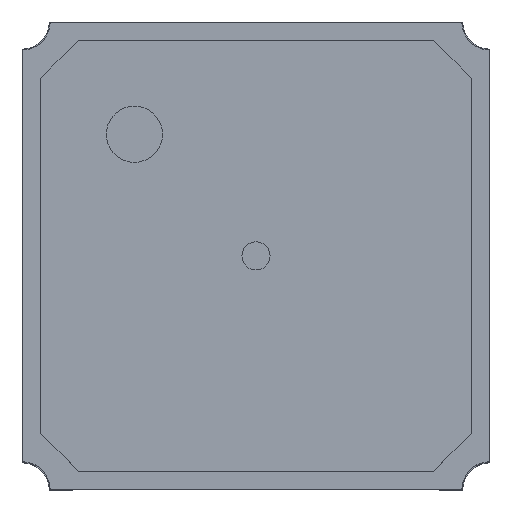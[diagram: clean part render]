
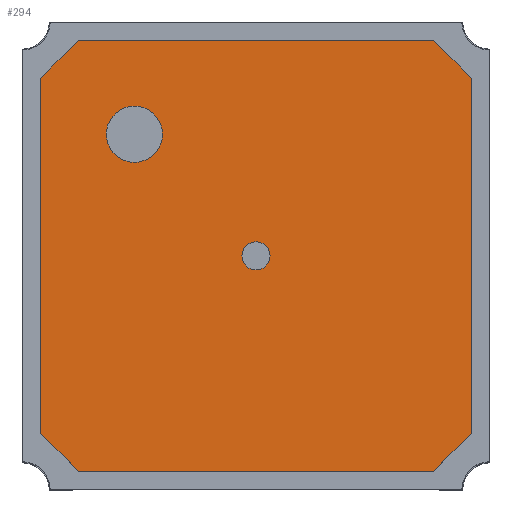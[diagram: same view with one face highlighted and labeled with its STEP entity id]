
A CAD part, top view. The second image highlights one B-rep face of the part: STEP entity #294.
In plain terms, the highlighted planar face has unit normal (0, 0, 1).
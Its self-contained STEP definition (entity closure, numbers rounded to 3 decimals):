
#72 = EDGE_CURVE ( 'NONE', #303, #73, #606, .T. ) ;
#73 = VERTEX_POINT ( 'NONE', #602 ) ;
#74 = ORIENTED_EDGE ( 'NONE', *, *, #75, .T. ) ;
#75 = EDGE_CURVE ( 'NONE', #73, #76, #601, .T. ) ;
#76 = VERTEX_POINT ( 'NONE', #597 ) ;
#77 = ORIENTED_EDGE ( 'NONE', *, *, #78, .T. ) ;
#78 = EDGE_CURVE ( 'NONE', #76, #79, #596, .T. ) ;
#79 = VERTEX_POINT ( 'NONE', #714 ) ;
#80 = ORIENTED_EDGE ( 'NONE', *, *, #81, .T. ) ;
#81 = EDGE_CURVE ( 'NONE', #79, #82, #713, .T. ) ;
#82 = VERTEX_POINT ( 'NONE', #709 ) ;
#83 = ORIENTED_EDGE ( 'NONE', *, *, #287, .T. ) ;
#91 = VERTEX_POINT ( 'NONE', #733 ) ;
#287 = EDGE_CURVE ( 'NONE', #82, #288, #1279, .T. ) ;
#288 = VERTEX_POINT ( 'NONE', #1275 ) ;
#289 = ORIENTED_EDGE ( 'NONE', *, *, #305, .T. ) ;
#294 = ADVANCED_FACE ( 'NONE', ( #1263, #1262, #1261 ), #1246, .T. ) ;
#295 = EDGE_LOOP ( 'NONE', ( #296, #298 ) ) ;
#296 = ORIENTED_EDGE ( 'NONE', *, *, #297, .F. ) ;
#297 = EDGE_CURVE ( 'NONE', #448, #91, #1241, .T. ) ;
#298 = ORIENTED_EDGE ( 'NONE', *, *, #501, .F. ) ;
#299 = EDGE_LOOP ( 'NONE', ( #300, #304, #74, #77, #80, #83, #289, #307 ) ) ;
#300 = ORIENTED_EDGE ( 'NONE', *, *, #301, .T. ) ;
#301 = EDGE_CURVE ( 'NONE', #302, #303, #1236, .T. ) ;
#302 = VERTEX_POINT ( 'NONE', #1232 ) ;
#303 = VERTEX_POINT ( 'NONE', #1320 ) ;
#304 = ORIENTED_EDGE ( 'NONE', *, *, #72, .T. ) ;
#305 = EDGE_CURVE ( 'NONE', #288, #306, #1319, .T. ) ;
#306 = VERTEX_POINT ( 'NONE', #1315 ) ;
#307 = ORIENTED_EDGE ( 'NONE', *, *, #308, .T. ) ;
#308 = EDGE_CURVE ( 'NONE', #306, #302, #1314, .T. ) ;
#309 = EDGE_LOOP ( 'NONE', ( #310, #311 ) ) ;
#310 = ORIENTED_EDGE ( 'NONE', *, *, #434, .F. ) ;
#311 = ORIENTED_EDGE ( 'NONE', *, *, #312, .F. ) ;
#312 = EDGE_CURVE ( 'NONE', #436, #435, #1309, .T. ) ;
#434 = EDGE_CURVE ( 'NONE', #435, #436, #1404, .T. ) ;
#435 = VERTEX_POINT ( 'NONE', #1400 ) ;
#436 = VERTEX_POINT ( 'NONE', #1399 ) ;
#448 = VERTEX_POINT ( 'NONE', #1583 ) ;
#501 = EDGE_CURVE ( 'NONE', #91, #448, #1613, .T. ) ;
#595 = CARTESIAN_POINT ( 'NONE',  ( -1.15, -0.95, 0.615 ) ) ;
#596 = LINE ( 'NONE', #595, #716 ) ;
#597 = CARTESIAN_POINT ( 'NONE',  ( -1.15, -0.95, 0.615 ) ) ;
#598 = DIRECTION ( 'NONE',  ( 0., -1., 0. ) ) ;
#599 = VECTOR ( 'NONE', #598, 1000. ) ;
#600 = CARTESIAN_POINT ( 'NONE',  ( -1.15, 0.95, 0.615 ) ) ;
#601 = LINE ( 'NONE', #600, #599 ) ;
#602 = CARTESIAN_POINT ( 'NONE',  ( -1.15, 0.95, 0.615 ) ) ;
#603 = DIRECTION ( 'NONE',  ( -0.707, -0.707, 0. ) ) ;
#604 = VECTOR ( 'NONE', #603, 1000. ) ;
#605 = CARTESIAN_POINT ( 'NONE',  ( -0.95, 1.15, 0.615 ) ) ;
#606 = LINE ( 'NONE', #605, #604 ) ;
#709 = CARTESIAN_POINT ( 'NONE',  ( 0.95, -1.15, 0.615 ) ) ;
#710 = DIRECTION ( 'NONE',  ( 1., 0., 0. ) ) ;
#711 = VECTOR ( 'NONE', #710, 1000. ) ;
#712 = CARTESIAN_POINT ( 'NONE',  ( -0.95, -1.15, 0.615 ) ) ;
#713 = LINE ( 'NONE', #712, #711 ) ;
#714 = CARTESIAN_POINT ( 'NONE',  ( -0.95, -1.15, 0.615 ) ) ;
#715 = DIRECTION ( 'NONE',  ( 0.707, -0.707, 0. ) ) ;
#716 = VECTOR ( 'NONE', #715, 1000. ) ;
#733 = CARTESIAN_POINT ( 'NONE',  ( -0.8, 0.65, 0.615 ) ) ;
#1232 = CARTESIAN_POINT ( 'NONE',  ( 0.95, 1.15, 0.615 ) ) ;
#1233 = DIRECTION ( 'NONE',  ( -1., 0., 0. ) ) ;
#1234 = VECTOR ( 'NONE', #1233, 1000. ) ;
#1235 = CARTESIAN_POINT ( 'NONE',  ( 0.95, 1.15, 0.615 ) ) ;
#1236 = LINE ( 'NONE', #1235, #1234 ) ;
#1237 = DIRECTION ( 'NONE',  ( 1., 0., 0. ) ) ;
#1238 = DIRECTION ( 'NONE',  ( 0., 0., 1. ) ) ;
#1239 = CARTESIAN_POINT ( 'NONE',  ( -0.65, 0.65, 0.615 ) ) ;
#1240 = AXIS2_PLACEMENT_3D ( 'NONE', #1239, #1238, #1237 ) ;
#1241 = CIRCLE ( 'NONE', #1240, 0.15 ) ;
#1242 = DIRECTION ( 'NONE',  ( 1., 0., 0. ) ) ;
#1243 = DIRECTION ( 'NONE',  ( 0., 0., 1. ) ) ;
#1244 = CARTESIAN_POINT ( 'NONE',  ( -1.15, 1.15, 0.615 ) ) ;
#1245 = AXIS2_PLACEMENT_3D ( 'NONE', #1244, #1243, #1242 ) ;
#1246 = PLANE ( 'NONE',  #1245 ) ;
#1261 = FACE_BOUND ( 'NONE', #309, .T. ) ;
#1262 = FACE_OUTER_BOUND ( 'NONE', #299, .T. ) ;
#1263 = FACE_BOUND ( 'NONE', #295, .T. ) ;
#1275 = CARTESIAN_POINT ( 'NONE',  ( 1.15, -0.95, 0.615 ) ) ;
#1276 = DIRECTION ( 'NONE',  ( 0.707, 0.707, 0. ) ) ;
#1277 = VECTOR ( 'NONE', #1276, 1000. ) ;
#1278 = CARTESIAN_POINT ( 'NONE',  ( 0.95, -1.15, 0.615 ) ) ;
#1279 = LINE ( 'NONE', #1278, #1277 ) ;
#1305 = DIRECTION ( 'NONE',  ( 1., 0., 0. ) ) ;
#1306 = DIRECTION ( 'NONE',  ( 0., 0., 1. ) ) ;
#1307 = CARTESIAN_POINT ( 'NONE',  ( 0., 0., 0.615 ) ) ;
#1308 = AXIS2_PLACEMENT_3D ( 'NONE', #1307, #1306, #1305 ) ;
#1309 = CIRCLE ( 'NONE', #1308, 0.075 ) ;
#1311 = DIRECTION ( 'NONE',  ( -0.707, 0.707, 0. ) ) ;
#1312 = VECTOR ( 'NONE', #1311, 1000. ) ;
#1313 = CARTESIAN_POINT ( 'NONE',  ( 1.15, 0.95, 0.615 ) ) ;
#1314 = LINE ( 'NONE', #1313, #1312 ) ;
#1315 = CARTESIAN_POINT ( 'NONE',  ( 1.15, 0.95, 0.615 ) ) ;
#1316 = DIRECTION ( 'NONE',  ( 0., 1., 0. ) ) ;
#1317 = VECTOR ( 'NONE', #1316, 1000. ) ;
#1318 = CARTESIAN_POINT ( 'NONE',  ( 1.15, -0.95, 0.615 ) ) ;
#1319 = LINE ( 'NONE', #1318, #1317 ) ;
#1320 = CARTESIAN_POINT ( 'NONE',  ( -0.95, 1.15, 0.615 ) ) ;
#1399 = CARTESIAN_POINT ( 'NONE',  ( 0.075, 0., 0.615 ) ) ;
#1400 = CARTESIAN_POINT ( 'NONE',  ( -0.075, 0., 0.615 ) ) ;
#1401 = DIRECTION ( 'NONE',  ( 1., 0., 0. ) ) ;
#1402 = DIRECTION ( 'NONE',  ( 0., 0., 1. ) ) ;
#1403 = AXIS2_PLACEMENT_3D ( 'NONE', #1409, #1402, #1401 ) ;
#1404 = CIRCLE ( 'NONE', #1403, 0.075 ) ;
#1409 = CARTESIAN_POINT ( 'NONE',  ( 0., 0., 0.615 ) ) ;
#1583 = CARTESIAN_POINT ( 'NONE',  ( -0.5, 0.65, 0.615 ) ) ;
#1609 = DIRECTION ( 'NONE',  ( 1., 0., 0. ) ) ;
#1610 = DIRECTION ( 'NONE',  ( 0., 0., 1. ) ) ;
#1611 = CARTESIAN_POINT ( 'NONE',  ( -0.65, 0.65, 0.615 ) ) ;
#1612 = AXIS2_PLACEMENT_3D ( 'NONE', #1611, #1610, #1609 ) ;
#1613 = CIRCLE ( 'NONE', #1612, 0.15 ) ;
